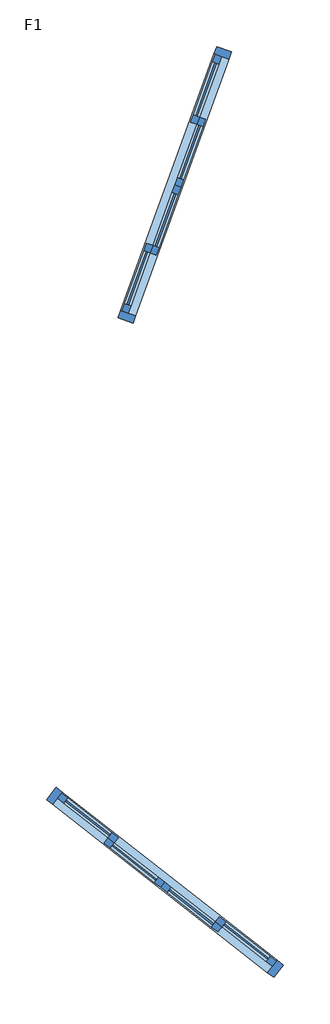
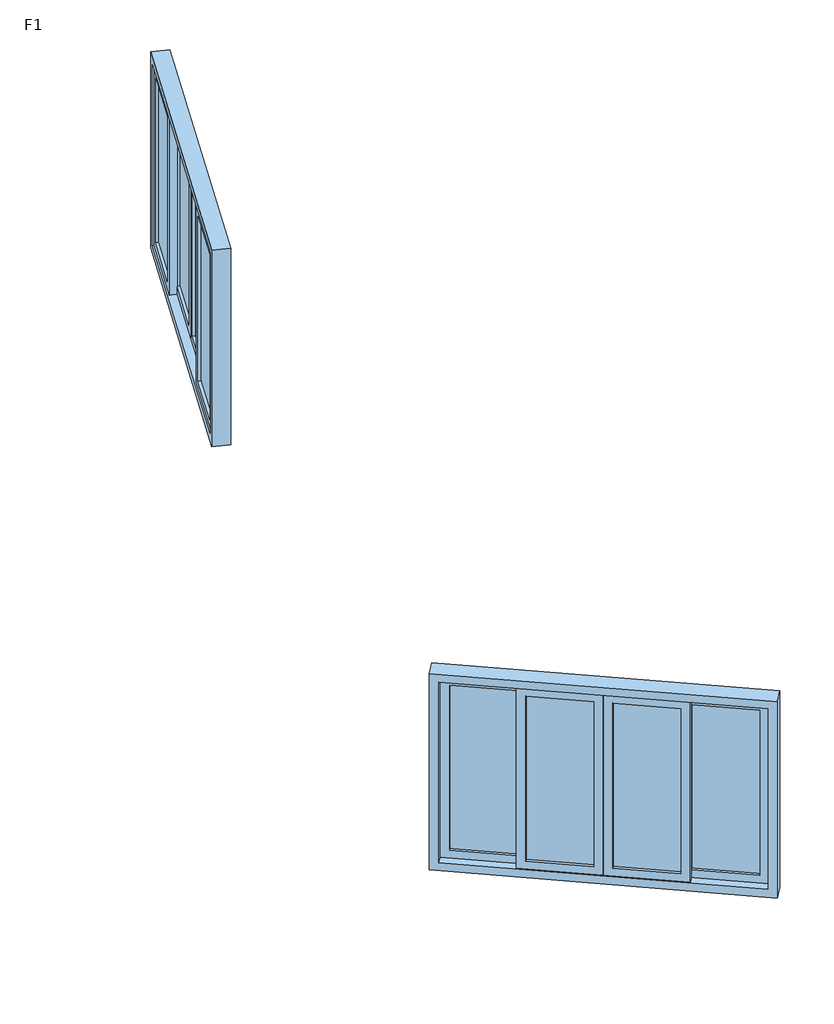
# One storey: 2 windows.
"""IFC4 building model written with IfcOpenShell, lengths in millimetres."""

import ifcopenshell
import ifcopenshell.guid

model = None  # the IFC model being written
_history = None  # IfcOwnerHistory: only IFC2X3 demands one
_inside = {}  # id of a spatial element -> (the spatial element, [elements in it])
_under = {}  # id of a project, library or spatial element -> (it, [spatial elements below it])
_declared = {}  # id of a project -> (the project, [libraries it declares])
_typed = {}  # id of a type object -> (the type object, [elements of that type])
_made_of = {}  # id of a material, layer set ... -> (it, [elements and type objects made of it])


def new_model(schema):
    """Start an empty IFC model of exactly this schema.

    Asked for "IFC4X3", IfcOpenShell would pick the latest addendum, in which some entities
    have other attributes; the version numbers below select the first issue.
    IFC2X3 requires an IfcOwnerHistory on every rooted entity: one is made here for all.
    """
    global model, _history
    if schema == "IFC4X3":
        model = ifcopenshell.file(schema_version=(4, 3, 0, 0))
    else:
        model = ifcopenshell.file(schema=schema)
    _inside.clear()
    _under.clear()
    _declared.clear()
    _typed.clear()
    _made_of.clear()
    _history = None
    if model.schema == "IFC2X3":
        org = make("IfcOrganization", Name="unknown")
        user = make(
            "IfcPersonAndOrganization",
            ThePerson=make("IfcPerson", FamilyName="unknown"),
            TheOrganization=org,
        )
        app = make(
            "IfcApplication",
            ApplicationDeveloper=org,
            Version="unknown",
            ApplicationFullName="unknown",
            ApplicationIdentifier="unknown",
        )
        _history = make(
            "IfcOwnerHistory",
            OwningUser=user,
            OwningApplication=app,
            ChangeAction="ADDED",
            CreationDate=0,
        )
    return model


def make(cls, **values):
    """One entity of the class cls with the attributes given. An attribute that is None is left unset."""
    return model.create_entity(
        cls, **{name: value for name, value in values.items() if value is not None}
    )


def rooted(cls, **values):
    """An entity with a GlobalId (a new one), such as an element, a storey or a relation."""
    return make(cls, GlobalId=ifcopenshell.guid.new(), OwnerHistory=_history, **values)


def si_unit(unit_type, name, prefix=None):
    """IfcSIUnit, for example si_unit("LENGTHUNIT", "METRE", prefix="MILLI")."""
    return make("IfcSIUnit", UnitType=unit_type, Prefix=prefix, Name=name)


def assignment(units):
    """IfcUnitAssignment: the units of a project."""
    return None if units is None else make("IfcUnitAssignment", Units=units)


def point(xyz):
    """IfcCartesianPoint."""
    return None if xyz is None else make("IfcCartesianPoint", Coordinates=xyz)


def direction(xyz):
    """IfcDirection."""
    return None if xyz is None else make("IfcDirection", DirectionRatios=xyz)


def frame(location, z_axis=None, x_axis=None):
    """IfcAxis2Placement3D, a coordinate frame: its origin and axes. An axis left out is left unset."""
    return make(
        "IfcAxis2Placement3D",
        Location=point(location),
        Axis=direction(z_axis),
        RefDirection=direction(x_axis),
    )


def origin():
    """The frame at (0, 0, 0) with its axes left unset."""
    return frame((0.0, 0.0, 0.0))


def place(relative_to, where):
    """IfcLocalPlacement: puts the frame where relative to a parent placement (None: the world)."""
    return make(
        "IfcLocalPlacement", PlacementRelTo=relative_to, RelativePlacement=where
    )


def context(
    kind, dimensions, precision=None, world=None, true_north=None, identifier=None
):
    """IfcGeometricRepresentationContext, for example the 3D "Model" context."""
    return make(
        "IfcGeometricRepresentationContext",
        ContextIdentifier=identifier,
        ContextType=kind,
        CoordinateSpaceDimension=dimensions,
        Precision=precision,
        WorldCoordinateSystem=world,
        TrueNorth=true_north,
    )


def project(units=None, contexts=None):
    """IfcProject with its units and contexts."""
    return rooted(
        "IfcProject",
        Name="project",
        RepresentationContexts=contexts,
        UnitsInContext=assignment(units),
    )


def spatial(cls, under=None, at=None, **own):
    """A site, building, storey or space (cls), placed at a placement, below another one or the project."""
    s = rooted(cls, ObjectPlacement=at, **own)
    if under is not None:
        _under.setdefault(under.id(), (under, []))[1].append(s)
    return s


def polyline(points):
    """IfcPolyline through the points."""
    return make("IfcPolyline", Points=[point(p) for p in points])


def outline(outer, holes=None, kind="AREA"):
    """IfcArbitraryClosedProfileDef: a profile drawn as a closed curve; with holes, ...WithVoids."""
    if holes is None:
        return make("IfcArbitraryClosedProfileDef", ProfileType=kind, OuterCurve=outer)
    return make(
        "IfcArbitraryProfileDefWithVoids",
        ProfileType=kind,
        OuterCurve=outer,
        InnerCurves=holes,
    )


def extrude(swept, where, along, depth):
    """IfcExtrudedAreaSolid: the profile swept, set in the frame where, extruded along a direction by depth."""
    return make(
        "IfcExtrudedAreaSolid",
        SweptArea=swept,
        Position=where,
        ExtrudedDirection=direction(along),
        Depth=depth,
    )


def shape(context_of_items, identifier, shape_type, items):
    """IfcShapeRepresentation: the items that make up one representation, for example the "Body"."""
    return make(
        "IfcShapeRepresentation",
        ContextOfItems=context_of_items,
        RepresentationIdentifier=identifier,
        RepresentationType=shape_type,
        Items=items,
    )


def source(mapping_origin, context_of_items, identifier, shape_type, items):
    """IfcRepresentationMap: a shape defined once, which mapped items show again and again."""
    return make(
        "IfcRepresentationMap",
        MappingOrigin=mapping_origin,
        MappedRepresentation=shape(context_of_items, identifier, shape_type, items),
    )


def transform(
    local_origin,
    x_axis=None,
    y_axis=None,
    z_axis=None,
    scale=None,
    scale2=None,
    scale3=None,
    uniform=True,
):
    """IfcCartesianTransformationOperator3D, or its non-uniform kind. x_axis, y_axis, z_axis: its Axis1, 2, 3."""
    if uniform:
        return make(
            "IfcCartesianTransformationOperator3D",
            Axis1=direction(x_axis),
            Axis2=direction(y_axis),
            LocalOrigin=point(local_origin),
            Scale=scale,
            Axis3=direction(z_axis),
        )
    return make(
        "IfcCartesianTransformationOperator3DnonUniform",
        Axis1=direction(x_axis),
        Axis2=direction(y_axis),
        LocalOrigin=point(local_origin),
        Scale=scale,
        Axis3=direction(z_axis),
        Scale2=scale2,
        Scale3=scale3,
    )


def mapped(mapping_source, mapping_target):
    """IfcMappedItem: shows the shape of a source again, moved by a transform."""
    return make(
        "IfcMappedItem", MappingSource=mapping_source, MappingTarget=mapping_target
    )


def made_of(thing, what):
    """Note that an element or type object is made of a material, layer set ...; save() writes the relation."""
    if what is not None:
        _made_of.setdefault(what.id(), (what, []))[1].append(thing)
    return thing


def element(
    cls,
    number,
    at=None,
    inside=None,
    cuts=None,
    type_object=None,
    material=None,
    context=None,
    identifier="Body",
    shape_type=None,
    held_by="IfcProductDefinitionShape",
    body=None,
    shapes=None,
    **own,
):
    """One element of the class cls, such as IfcWall. Its Tag is "e" and its number.

    at: its placement. inside: the storey or other place that contains it. cuts: it is an
    opening in that element (IfcRelVoidsElement). A single representation is given by context,
    identifier, shape_type and body (its items); several are given by shapes. held_by: the class
    of the entity that holds the representations. save() writes the other relations.
    """
    e = rooted(cls, Tag="e%d" % number, ObjectPlacement=at, **own)
    if body is not None:
        shapes = [shape(context, identifier, shape_type, body)]
    if shapes is not None:
        e.Representation = make(held_by, Representations=shapes)
    if inside is not None:
        _inside.setdefault(inside.id(), (inside, []))[1].append(e)
    if cuts is not None:
        rooted(
            "IfcRelVoidsElement", RelatingBuildingElement=cuts, RelatedOpeningElement=e
        )
    if type_object is not None:
        _typed.setdefault(type_object.id(), (type_object, []))[1].append(e)
    return made_of(e, material)


def aggregate(whole, parts):
    """IfcRelAggregates: a whole, such as a stair, and the parts it consists of."""
    return rooted("IfcRelAggregates", RelatingObject=whole, RelatedObjects=parts)


def save(model, path):
    """Write the relations noted so far, then the file.

    IfcRelAggregates (storeys below a building ...), IfcRelContainedInSpatialStructure (elements
    in a storey), IfcRelDefinesByType, IfcRelAssociatesMaterial and IfcRelDeclares: one each for
    every whole, place, type object, material and project.
    """
    for whole, parts in _under.values():
        aggregate(whole, parts)
    for where, things in _inside.values():
        rooted(
            "IfcRelContainedInSpatialStructure",
            RelatedElements=things,
            RelatingStructure=where,
        )
    for kind, things in _typed.values():
        rooted("IfcRelDefinesByType", RelatedObjects=things, RelatingType=kind)
    for what, things in _made_of.values():
        rooted("IfcRelAssociatesMaterial", RelatedObjects=things, RelatingMaterial=what)
    for by, libraries in _declared.values():
        rooted("IfcRelDeclares", RelatingContext=by, RelatedDefinitions=libraries)
    model.write(path)


def window_220_x_150_cm_21dcba9c(model_context):
    return source(origin(), model_context, "Body", "SweptSolid", [
        extrude(outline(polyline([(2340.0, -1040.0), (960.0, -1040.0), (960.0, -490.0), (2340.0, -490.0), (2340.0, -1040.0)]), holes=[polyline([(2280.0, -980.0), (2280.0, -550.0), (1020.0, -550.0), (1020.0, -980.0), (2280.0, -980.0)])]), frame((0.0, -230.0, 0.0), z_axis=(0.0, 1.0, 0.0), x_axis=(0.0, 0.0, 1.0)), (0.0, 0.0, 1.0), 50.0),
        extrude(outline(polyline([(-550.0, -200.0), (-550.0, -210.0), (-980.0, -210.0), (-980.0, -200.0), (-550.0, -200.0)])), frame((0.0, 0.0, 1020.0), z_axis=(0.0, 0.0, 1.0), x_axis=(1.0, 0.0, 0.0)), (0.0, 0.0, 1.0), 1260.0),
        extrude(outline(polyline([(2340.0, -550.0), (960.0, -550.0), (960.0, 0.0), (2340.0, 0.0), (2340.0, -550.0)]), holes=[polyline([(2280.0, -490.0), (2280.0, -60.0), (1020.0, -60.0), (1020.0, -490.0), (2280.0, -490.0)])]), frame((0.0, -180.0, 0.0), z_axis=(0.0, 1.0, 0.0), x_axis=(0.0, 0.0, 1.0)), (0.0, 0.0, 1.0), 50.0),
        extrude(outline(polyline([(-60.0, -160.0), (-490.0, -160.0), (-490.0, -150.0), (-60.0, -150.0), (-60.0, -160.0)])), frame((0.0, 0.0, 1020.0), z_axis=(0.0, 0.0, 1.0), x_axis=(1.0, 0.0, 0.0)), (0.0, 0.0, 1.0), 1260.0),
        extrude(outline(polyline([(2340.0, 1040.0), (2340.0, 490.0), (960.0, 490.0), (960.0, 1040.0), (2340.0, 1040.0)]), holes=[polyline([(2280.0, 980.0), (1020.0, 980.0), (1020.0, 550.0), (2280.0, 550.0), (2280.0, 980.0)])]), frame((0.0, -230.0, 0.0), z_axis=(0.0, 1.0, 0.0), x_axis=(0.0, 0.0, 1.0)), (0.0, 0.0, 1.0), 50.0),
        extrude(outline(polyline([(550.0, -200.0), (980.0, -200.0), (980.0, -210.0), (550.0, -210.0), (550.0, -200.0)])), frame((0.0, 0.0, 1020.0), z_axis=(0.0, 0.0, 1.0), x_axis=(1.0, 0.0, 0.0)), (0.0, 0.0, 1.0), 1260.0),
        extrude(outline(polyline([(2340.0, 550.0), (2340.0, 0.0), (960.0, 0.0), (960.0, 550.0), (2340.0, 550.0)]), holes=[polyline([(2280.0, 490.0), (1020.0, 490.0), (1020.0, 60.0), (2280.0, 60.0), (2280.0, 490.0)])]), frame((0.0, -180.0, 0.0), z_axis=(0.0, 1.0, 0.0), x_axis=(0.0, 0.0, 1.0)), (0.0, 0.0, 1.0), 50.0),
        extrude(outline(polyline([(60.0, -160.0), (60.0, -150.0), (490.0, -150.0), (490.0, -160.0), (60.0, -160.0)])), frame((0.0, 0.0, 1020.0), z_axis=(0.0, 0.0, 1.0), x_axis=(1.0, 0.0, 0.0)), (0.0, 0.0, 1.0), 1260.0),
        extrude(outline(polyline([(2400.0, 1100.0), (2400.0, -1100.0), (900.0, -1100.0), (900.0, 1100.0), (2400.0, 1100.0)]), holes=[polyline([(2340.0, 1040.0), (960.0, 1040.0), (960.0, -1040.0), (2340.0, -1040.0), (2340.0, 1040.0)])]), frame((0.0, -240.0, 0.0), z_axis=(0.0, 1.0, 0.0), x_axis=(0.0, 0.0, 1.0)), (0.0, 0.0, 1.0), 120.0),
    ])


model = new_model("IFC4")

# Units and contexts
model_context = context("Model", 3, world=origin())
ifc_project = project(units=[si_unit("LENGTHUNIT", "METRE", prefix="MILLI")], contexts=[model_context])

# Site, building, storey
site = spatial("IfcSite", under=ifc_project)
building = spatial("IfcBuilding", under=site)
storey = spatial("IfcBuildingStorey", under=building, Name="F1", Elevation=0.0)

# Windows
placement = place(None, origin())
window_220_x_150_cm_shape = window_220_x_150_cm_21dcba9c(model_context)
element("IfcWindow", 1, ObjectType="四開窗- (1) : 220 x 150 cm", at=placement, inside=storey, context=model_context, shape_type="MappedRepresentation", body=[
    mapped(window_220_x_150_cm_shape, transform((-24261.0093654, -27930.9656786, 100.0), x_axis=(-0.3420201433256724, -0.9396926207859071, 0.0), y_axis=(0.9396926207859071, -0.3420201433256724, 0.0), z_axis=(0.0, 0.0, 1.0))),
])
element("IfcWindow", 2, ObjectType="四開窗- (1) : 220 x 150 cm", at=placement, inside=storey, context=model_context, shape_type="MappedRepresentation", body=[
    mapped(window_220_x_150_cm_shape, transform((-24615.8283492, -33323.4180507, -720.0), x_axis=(-0.7880107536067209, 0.6156614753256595, 0.0), y_axis=(-0.6156614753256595, -0.7880107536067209, 0.0), z_axis=(0.0, 0.0, 1.0))),
])

save(model, "model.ifc")
